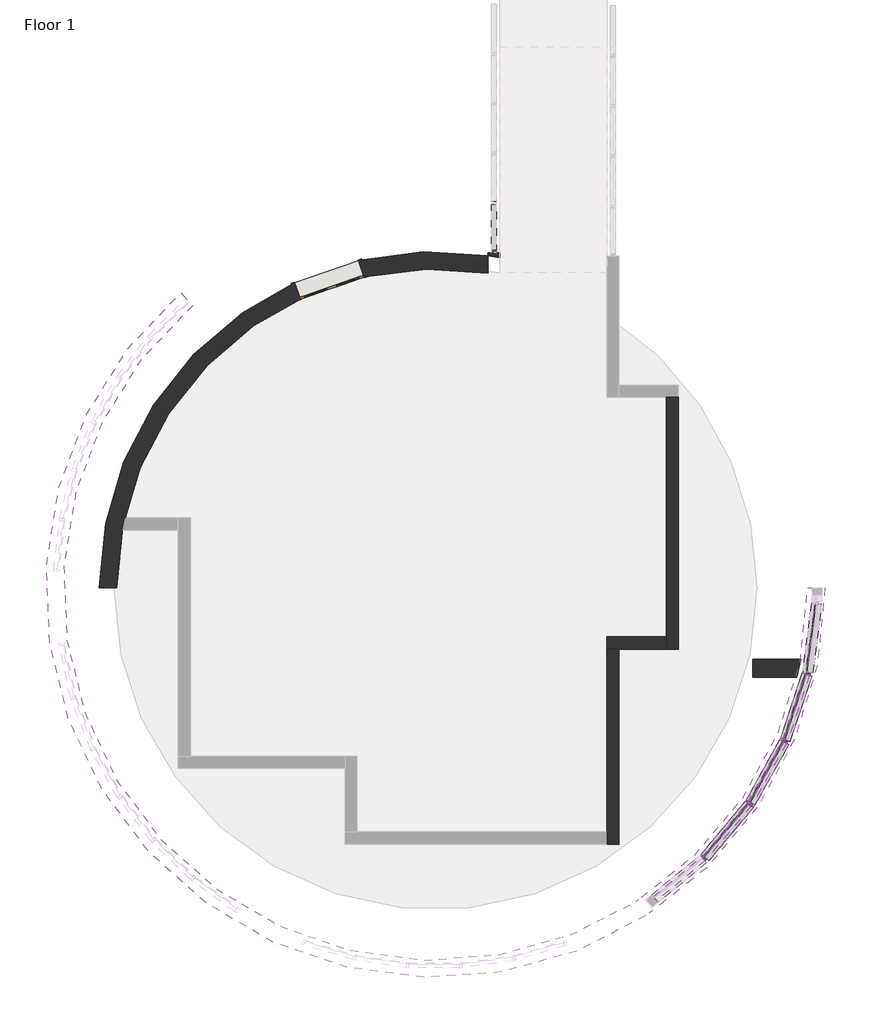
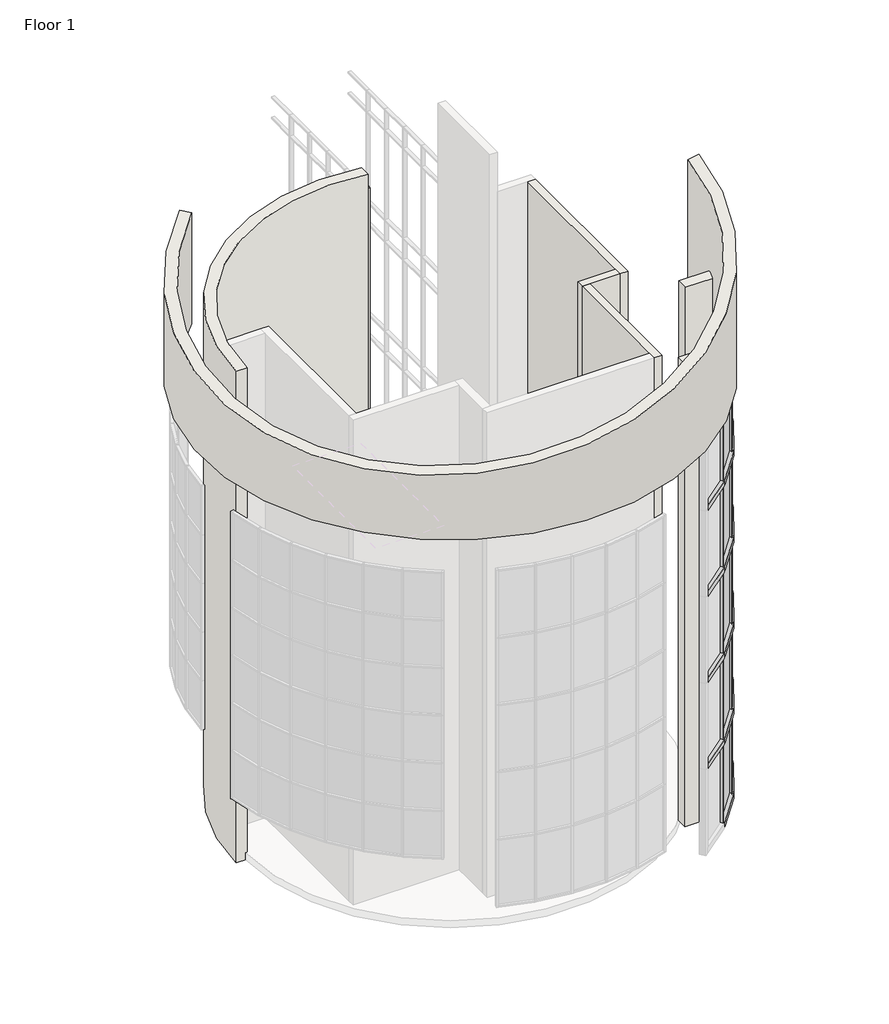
# One storey, part 6 of 11: 60 members, 20 plates, 8 walls, 1 door.
"""IFC4 building model written with IfcOpenShell, lengths in millimetres."""

from ifc_helpers import new_model, si_unit, point, frame, frame_2d, origin, origin_with_axes, place, context, project, spatial, polyline, circle_curve, ellipse_curve, trimmed, segment, composite_curve, outline, extrude, faceted_brep, transform, mapped, element, save
from ifc_brep_helpers import plane_surface, cylinder_surface, revolved_surface, advanced_brep
from components import door_bbe262d5, member_60e3aab2, member_5d07894b, member_c86c7f77, member_810865a4, member_5825c931, member_c2dac231, member_b9454cfc, member_923d5781, member_c17f1be2, member_d2e7e466, member_bbf28ac8, member_5c8c9790, member_136c1585, member_707c4438, member_7751821a, member_84ccbaea, member_b2bf14c7, system_panel_glazed_00caa3d2, system_panel_glazed_6c0831e3, system_panel_glazed_ae73c78b

model = new_model("IFC4")

# Units and contexts
model_context = context("Model", 3, world=origin())
ifc_project = project(units=[si_unit("LENGTHUNIT", "METRE", prefix="MILLI")], contexts=[model_context])

# Site, building, storey
site = spatial("IfcSite", under=ifc_project)
building = spatial("IfcBuilding", under=site)
storey = spatial("IfcBuildingStorey", under=building, Name="Floor 1", Elevation=0.0)

# Door
placement = place(None, origin())
door_shape = door_bbe262d5(model_context)
element("IfcDoor", 1, ObjectType="Dbl Acting Dbl Glass 1 : 68\" x 84\"", at=placement, inside=storey, context=model_context, shape_type="MappedRepresentation", body=[
    mapped(door_shape, transform((3609.6174399, 27247.0948629, 0.0), x_axis=(-0.9454901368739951, -0.3256507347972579, 0.0), y_axis=(0.3256507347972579, -0.9454901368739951, 0.0), z_axis=(0.0, 0.0, 1.0))),
])

# Members
member_shape = member_60e3aab2(model_context)
element("IfcMember", 2, ObjectType="Rectangular Mullion1 : 2.5\" x 5\" rectangular", at=placement, inside=storey, context=model_context, shape_type="MappedRepresentation", body=[
    mapped(member_shape, transform((7830.8276119, 27918.5201792, -152.4), x_axis=(0.0, 0.0, -1.0), y_axis=(1.0, 0.0, 0.0), z_axis=(0.0, -1.0, 0.0))),
])
member_2_shape = member_5d07894b(model_context)
element("IfcMember", 3, ObjectType="Rectangular Mullion1 : 2.5\" x 5\" rectangular", at=placement, inside=storey, context=model_context, shape_type="MappedRepresentation", body=[
    mapped(member_2_shape, transform((7830.8276119, 29189.5191429, -88.9), x_axis=(0.0, 1.0, 0.0), y_axis=(1.0, 0.0, 0.0), z_axis=(0.0, 0.0, -1.0))),
])
member_3_shape = member_c86c7f77(model_context)
element("IfcMember", 4, ObjectType="Rectangular Mullion1 : 2.5\" x 5\" rectangular", at=placement, inside=storey, context=model_context, shape_type="MappedRepresentation", body=[
    mapped(member_3_shape, transform((7830.8276119, 29189.5191429, 5486.4), x_axis=(0.0, 0.0, 1.0), y_axis=(1.0, 0.0, 0.0), z_axis=(0.0, 1.0, 0.0))),
])
element("IfcMember", 5, ObjectType="Rectangular Mullion1 : 2.5\" x 5\" rectangular", at=placement, inside=storey, context=model_context, shape_type="MappedRepresentation", body=[
    mapped(member_3_shape, transform((7830.8276119, 29189.5191429, 10210.8), x_axis=(0.0, 0.0, 1.0), y_axis=(1.0, 0.0, 0.0), z_axis=(0.0, 1.0, 0.0))),
])
element("IfcMember", 6, ObjectType="Rectangular Mullion1 : 2.5\" x 5\" rectangular", at=placement, inside=storey, context=model_context, shape_type="MappedRepresentation", body=[
    mapped(member_3_shape, transform((7830.8276119, 29189.5191429, 14935.2), x_axis=(0.0, 0.0, 1.0), y_axis=(1.0, 0.0, 0.0), z_axis=(0.0, 1.0, 0.0))),
])
element("IfcMember", 7, ObjectType="Rectangular Mullion1 : 2.5\" x 5\" rectangular", at=placement, inside=storey, context=model_context, shape_type="MappedRepresentation", body=[
    mapped(member_3_shape, transform((7830.8276119, 29189.5191429, 18745.2), x_axis=(0.0, 0.0, 1.0), y_axis=(1.0, 0.0, 0.0), z_axis=(0.0, 1.0, 0.0))),
])
element("IfcMember", 8, ObjectType="Rectangular Mullion1 : 2.5\" x 5\" rectangular", at=placement, inside=storey, context=model_context, shape_type="MappedRepresentation", body=[
    mapped(member_3_shape, transform((7830.8276119, 29189.5191429, 14020.8), x_axis=(0.0, 0.0, 1.0), y_axis=(1.0, 0.0, 0.0), z_axis=(0.0, 1.0, 0.0))),
])
element("IfcMember", 9, ObjectType="Rectangular Mullion1 : 2.5\" x 5\" rectangular", at=placement, inside=storey, context=model_context, shape_type="MappedRepresentation", body=[
    mapped(member_3_shape, transform((7830.8276119, 29189.5191429, 9296.4), x_axis=(0.0, 0.0, 1.0), y_axis=(1.0, 0.0, 0.0), z_axis=(0.0, 1.0, 0.0))),
])
member_4_shape = member_810865a4(model_context)
element("IfcMember", 10, ObjectType="Rectangular Mullion1 : 2.5\" x 5\" rectangular", at=placement, inside=storey, context=model_context, shape_type="MappedRepresentation", body=[
    mapped(member_4_shape, transform((13215.7892614, 12420.6743891, 0.0), x_axis=(0.7115792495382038, 0.7026058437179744, 0.0), y_axis=(0.7026058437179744, -0.7115792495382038, 0.0), z_axis=(0.0, 0.0, -1.0))),
])
element("IfcMember", 11, ObjectType="Rectangular Mullion1 : 2.5\" x 5\" rectangular", at=placement, inside=storey, context=model_context, shape_type="MappedRepresentation", body=[
    mapped(member_4_shape, transform((15282.1684229, 15418.9839138, 0.0), x_axis=(0.4032933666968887, 0.9150707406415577, 0.0), y_axis=(0.9150707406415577, -0.4032933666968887, 0.0), z_axis=(0.0, 0.0, -1.0))),
])
element("IfcMember", 12, ObjectType="Rectangular Mullion1 : 2.5\" x 5\" rectangular", at=placement, inside=storey, context=model_context, shape_type="MappedRepresentation", body=[
    mapped(member_4_shape, transform((15859.1061134, 17154.3952027, 0.0), x_axis=(0.2248585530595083, 0.9743914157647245, 0.0), y_axis=(0.9743914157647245, -0.2248585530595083, 0.0), z_axis=(0.0, 0.0, -1.0))),
])
member_5_shape = member_5825c931(model_context)
element("IfcMember", 13, ObjectType="Rectangular Mullion1 : 2.5\" x 5\" rectangular", at=placement, inside=storey, context=model_context, shape_type="MappedRepresentation", body=[
    mapped(member_5_shape, transform((14390.5542634, 13822.2580042, 0.0), x_axis=(0.5674685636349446, 0.8233950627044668, 0.0), y_axis=(0.8233950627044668, -0.5674685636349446, 0.0), z_axis=(0.0, 0.0, -1.0))),
])
member_6_shape = member_c2dac231(model_context)
element("IfcMember", 14, ObjectType="Rectangular Mullion1 : 2.5\" x 5\" rectangular", at=placement, inside=storey, context=model_context, shape_type="MappedRepresentation", body=[
    mapped(member_6_shape, transform((13191.1993553, 12400.5895935, 17373.6), x_axis=(0.0, 0.0, 1.0), y_axis=(0.6325919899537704, -0.7744852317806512, 0.0), z_axis=(0.7744852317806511, 0.6325919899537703, 0.0))),
])
member_7_shape = member_b9454cfc(model_context)
element("IfcMember", 15, ObjectType="Rectangular Mullion1 : 2.5\" x 5\" rectangular", at=placement, inside=storey, context=model_context, shape_type="MappedRepresentation", body=[
    mapped(member_7_shape, transform((14370.1590376, 13797.9249554, 17373.6), x_axis=(0.0, 0.0, 1.0), y_axis=(0.7663952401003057, -0.6423693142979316, 0.0), z_axis=(0.6423693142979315, 0.7663952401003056, 0.0))),
])
element("IfcMember", 16, ObjectType="Rectangular Mullion1 : 2.5\" x 5\" rectangular", at=placement, inside=storey, context=model_context, shape_type="MappedRepresentation", body=[
    mapped(member_7_shape, transform((15266.6890104, 15391.2629779, 17373.6), x_axis=(0.0, 0.0, 1.0), y_axis=(0.8731003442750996, -0.4875405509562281, 0.0), z_axis=(0.4875405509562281, 0.8731003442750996, 0.0))),
])
element("IfcMember", 17, ObjectType="Rectangular Mullion1 : 2.5\" x 5\" rectangular", at=placement, inside=storey, context=model_context, shape_type="MappedRepresentation", body=[
    mapped(member_7_shape, transform((15849.089834, 17124.2665345, 17373.6), x_axis=(0.0, 0.0, 1.0), y_axis=(0.9489344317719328, -0.3154733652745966, 0.0), z_axis=(0.3154733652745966, 0.9489344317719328, 0.0))),
])
element("IfcMember", 18, ObjectType="Rectangular Mullion1 : 2.5\" x 5\" rectangular", at=placement, inside=storey, context=model_context, shape_type="MappedRepresentation", body=[
    mapped(member_4_shape, transform((13215.7892614, 12420.6743891, 3657.6), x_axis=(0.7115792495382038, 0.7026058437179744, 0.0), y_axis=(0.7026058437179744, -0.7115792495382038, 0.0), z_axis=(0.0, 0.0, -1.0))),
])
element("IfcMember", 19, ObjectType="Rectangular Mullion1 : 2.5\" x 5\" rectangular", at=placement, inside=storey, context=model_context, shape_type="MappedRepresentation", body=[
    mapped(member_4_shape, transform((13215.7892614, 12420.6743891, 7315.2), x_axis=(0.7115792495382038, 0.7026058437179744, 0.0), y_axis=(0.7026058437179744, -0.7115792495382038, 0.0), z_axis=(0.0, 0.0, -1.0))),
])
element("IfcMember", 20, ObjectType="Rectangular Mullion1 : 2.5\" x 5\" rectangular", at=placement, inside=storey, context=model_context, shape_type="MappedRepresentation", body=[
    mapped(member_4_shape, transform((13215.7892614, 12420.6743891, 10972.8), x_axis=(0.7115792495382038, 0.7026058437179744, 0.0), y_axis=(0.7026058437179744, -0.7115792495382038, 0.0), z_axis=(0.0, 0.0, -1.0))),
])
element("IfcMember", 21, ObjectType="Rectangular Mullion1 : 2.5\" x 5\" rectangular", at=placement, inside=storey, context=model_context, shape_type="MappedRepresentation", body=[
    mapped(member_4_shape, transform((14390.5542634, 13822.2580042, 7315.2), x_axis=(0.5674685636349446, 0.8233950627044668, 0.0), y_axis=(0.8233950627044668, -0.5674685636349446, 0.0), z_axis=(0.0, 0.0, -1.0))),
])
element("IfcMember", 22, ObjectType="Rectangular Mullion1 : 2.5\" x 5\" rectangular", at=placement, inside=storey, context=model_context, shape_type="MappedRepresentation", body=[
    mapped(member_4_shape, transform((14390.5542634, 13822.2580042, 10972.8), x_axis=(0.5674685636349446, 0.8233950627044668, 0.0), y_axis=(0.8233950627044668, -0.5674685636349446, 0.0), z_axis=(0.0, 0.0, -1.0))),
])
element("IfcMember", 23, ObjectType="Rectangular Mullion1 : 2.5\" x 5\" rectangular", at=placement, inside=storey, context=model_context, shape_type="MappedRepresentation", body=[
    mapped(member_4_shape, transform((15282.1684229, 15418.9839138, 3657.6), x_axis=(0.4032933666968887, 0.9150707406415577, 0.0), y_axis=(0.9150707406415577, -0.4032933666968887, 0.0), z_axis=(0.0, 0.0, -1.0))),
])
element("IfcMember", 24, ObjectType="Rectangular Mullion1 : 2.5\" x 5\" rectangular", at=placement, inside=storey, context=model_context, shape_type="MappedRepresentation", body=[
    mapped(member_4_shape, transform((15282.1684229, 15418.9839138, 7315.2), x_axis=(0.4032933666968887, 0.9150707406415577, 0.0), y_axis=(0.9150707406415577, -0.4032933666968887, 0.0), z_axis=(0.0, 0.0, -1.0))),
])
element("IfcMember", 25, ObjectType="Rectangular Mullion1 : 2.5\" x 5\" rectangular", at=placement, inside=storey, context=model_context, shape_type="MappedRepresentation", body=[
    mapped(member_4_shape, transform((15282.1684229, 15418.9839138, 10972.8), x_axis=(0.4032933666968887, 0.9150707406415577, 0.0), y_axis=(0.9150707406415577, -0.4032933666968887, 0.0), z_axis=(0.0, 0.0, -1.0))),
])
element("IfcMember", 26, ObjectType="Rectangular Mullion1 : 2.5\" x 5\" rectangular", at=placement, inside=storey, context=model_context, shape_type="MappedRepresentation", body=[
    mapped(member_4_shape, transform((15859.1061134, 17154.3952027, 3657.6), x_axis=(0.2248585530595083, 0.9743914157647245, 0.0), y_axis=(0.9743914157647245, -0.2248585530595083, 0.0), z_axis=(0.0, 0.0, -1.0))),
])
element("IfcMember", 27, ObjectType="Rectangular Mullion1 : 2.5\" x 5\" rectangular", at=placement, inside=storey, context=model_context, shape_type="MappedRepresentation", body=[
    mapped(member_4_shape, transform((15859.1061134, 17154.3952027, 7315.2), x_axis=(0.2248585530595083, 0.9743914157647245, 0.0), y_axis=(0.9743914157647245, -0.2248585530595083, 0.0), z_axis=(0.0, 0.0, -1.0))),
])
element("IfcMember", 28, ObjectType="Rectangular Mullion1 : 2.5\" x 5\" rectangular", at=placement, inside=storey, context=model_context, shape_type="MappedRepresentation", body=[
    mapped(member_4_shape, transform((15859.1061134, 17154.3952027, 10972.8), x_axis=(0.2248585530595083, 0.9743914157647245, 0.0), y_axis=(0.9743914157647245, -0.2248585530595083, 0.0), z_axis=(0.0, 0.0, -1.0))),
])
member_8_shape = member_923d5781(model_context)
element("IfcMember", 29, ObjectType="Rectangular Mullion1 : 2.5\" x 5\" rectangular", at=placement, inside=storey, context=model_context, shape_type="MappedRepresentation", body=[
    mapped(member_8_shape, transform((13215.7892614, 12420.6743891, 14630.4), x_axis=(0.7115792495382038, 0.7026058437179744, 0.0), y_axis=(0.7026058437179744, -0.7115792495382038, 0.0), z_axis=(0.0, 0.0, -1.0))),
])
element("IfcMember", 30, ObjectType="Rectangular Mullion1 : 2.5\" x 5\" rectangular", at=placement, inside=storey, context=model_context, shape_type="MappedRepresentation", body=[
    mapped(member_8_shape, transform((14390.5542634, 13822.2580042, 14630.4), x_axis=(0.5674685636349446, 0.8233950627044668, 0.0), y_axis=(0.8233950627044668, -0.5674685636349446, 0.0), z_axis=(0.0, 0.0, -1.0))),
])
element("IfcMember", 31, ObjectType="Rectangular Mullion1 : 2.5\" x 5\" rectangular", at=placement, inside=storey, context=model_context, shape_type="MappedRepresentation", body=[
    mapped(member_8_shape, transform((15282.1684229, 15418.9839138, 14630.4), x_axis=(0.4032933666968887, 0.9150707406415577, 0.0), y_axis=(0.9150707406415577, -0.4032933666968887, 0.0), z_axis=(0.0, 0.0, -1.0))),
])
element("IfcMember", 32, ObjectType="Rectangular Mullion1 : 2.5\" x 5\" rectangular", at=placement, inside=storey, context=model_context, shape_type="MappedRepresentation", body=[
    mapped(member_8_shape, transform((15859.1061134, 17154.3952027, 14630.4), x_axis=(0.2248585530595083, 0.9743914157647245, 0.0), y_axis=(0.9743914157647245, -0.2248585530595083, 0.0), z_axis=(0.0, 0.0, -1.0))),
])
element("IfcMember", 33, ObjectType="Rectangular Mullion1 : 2.5\" x 5\" rectangular", at=placement, inside=storey, context=model_context, shape_type="MappedRepresentation", body=[
    mapped(member_5_shape, transform((14390.5542634, 13822.2580042, 3759.2), x_axis=(0.5674685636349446, 0.8233950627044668, 0.0), y_axis=(0.8233950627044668, -0.5674685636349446, 0.0), z_axis=(0.0, 0.0, -1.0))),
])
member_9_shape = member_c17f1be2(model_context)
element("IfcMember", 34, ObjectType="Rectangular Mullion1 : 2.5\" x 5\" rectangular", at=placement, inside=storey, context=model_context, shape_type="MappedRepresentation", body=[
    mapped(member_9_shape, transform((7830.8276119, 27918.5201792, 19596.1), x_axis=(0.0, -1.0, 0.0), y_axis=(1.0, 0.0, 0.0), z_axis=(0.0, 0.0, 1.0))),
])
member_10_shape = member_d2e7e466(model_context)
element("IfcMember", 35, ObjectType="Rectangular Mullion1 : 2.5\" x 5\" rectangular", at=placement, inside=storey, context=model_context, shape_type="MappedRepresentation", body=[
    mapped(member_10_shape, transform((7830.8276119, 27918.5201792, 5454.65), x_axis=(0.0, -1.0, 0.0), y_axis=(1.0, 0.0, 0.0), z_axis=(0.0, 0.0, 1.0))),
])
element("IfcMember", 36, ObjectType="Rectangular Mullion1 : 2.5\" x 5\" rectangular", at=placement, inside=storey, context=model_context, shape_type="MappedRepresentation", body=[
    mapped(member_10_shape, transform((7830.8276119, 27918.5201792, 10179.05), x_axis=(0.0, -1.0, 0.0), y_axis=(1.0, 0.0, 0.0), z_axis=(0.0, 0.0, 1.0))),
])
element("IfcMember", 37, ObjectType="Rectangular Mullion1 : 2.5\" x 5\" rectangular", at=placement, inside=storey, context=model_context, shape_type="MappedRepresentation", body=[
    mapped(member_10_shape, transform((7830.8276119, 27918.5201792, 14903.45), x_axis=(0.0, -1.0, 0.0), y_axis=(1.0, 0.0, 0.0), z_axis=(0.0, 0.0, 1.0))),
])
member_11_shape = member_bbf28ac8(model_context)
element("IfcMember", 38, ObjectType="Rectangular Mullion1 : 2.5\" x 5\" rectangular", at=placement, inside=storey, context=model_context, shape_type="MappedRepresentation", body=[
    mapped(member_11_shape, transform((7830.8276119, 27918.5201792, 18713.45), x_axis=(0.0, -1.0, 0.0), y_axis=(1.0, 0.0, 0.0), z_axis=(0.0, 0.0, 1.0))),
])
element("IfcMember", 39, ObjectType="Rectangular Mullion1 : 2.5\" x 5\" rectangular", at=placement, inside=storey, context=model_context, shape_type="MappedRepresentation", body=[
    mapped(member_11_shape, transform((7830.8276119, 27918.5201792, 13989.05), x_axis=(0.0, -1.0, 0.0), y_axis=(1.0, 0.0, 0.0), z_axis=(0.0, 0.0, 1.0))),
])
element("IfcMember", 40, ObjectType="Rectangular Mullion1 : 2.5\" x 5\" rectangular", at=placement, inside=storey, context=model_context, shape_type="MappedRepresentation", body=[
    mapped(member_11_shape, transform((7830.8276119, 27918.5201792, 9264.65), x_axis=(0.0, -1.0, 0.0), y_axis=(1.0, 0.0, 0.0), z_axis=(0.0, 0.0, 1.0))),
])
member_12_shape = member_5c8c9790(model_context)
element("IfcMember", 41, ObjectType="Rectangular Mullion1 : 2.5\" x 5\" rectangular", at=placement, inside=storey, context=model_context, shape_type="MappedRepresentation", body=[
    mapped(member_12_shape, transform((7830.8276119, 27918.5201792, 4540.25), x_axis=(0.0, -1.0, 0.0), y_axis=(1.0, 0.0, 0.0), z_axis=(0.0, 0.0, 1.0))),
])
member_13_shape = member_136c1585(model_context)
element("IfcMember", 42, ObjectType="Rectangular Mullion1 : 8\" x 10\" rectangular", at=placement, inside=storey, context=model_context, shape_type="MappedRepresentation", body=[
    mapped(member_13_shape, transform((15863.3051047, 17185.866316, 0.0), x_axis=(0.0, 0.0, -1.0), y_axis=(0.9912161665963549, -0.13225169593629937, 0.0), z_axis=(-0.13225169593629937, -0.9912161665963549, 0.0))),
])
element("IfcMember", 43, ObjectType="Rectangular Mullion1 : 8\" x 10\" rectangular", at=placement, inside=storey, context=model_context, shape_type="MappedRepresentation", body=[
    mapped(member_13_shape, transform((15292.1847023, 15449.112582, 0.0), x_axis=(0.0, 0.0, -1.0), y_axis=(0.948934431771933, -0.3154733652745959, 0.0), z_axis=(-0.31547336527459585, -0.9489344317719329, 0.0))),
])
element("IfcMember", 44, ObjectType="Rectangular Mullion1 : 8\" x 10\" rectangular", at=placement, inside=storey, context=model_context, shape_type="MappedRepresentation", body=[
    mapped(member_13_shape, transform((14406.0336758, 13849.9789402, 0.0), x_axis=(0.0, 0.0, -1.0), y_axis=(0.8731003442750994, -0.48754055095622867, 0.0), z_axis=(-0.4875405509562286, -0.8731003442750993, 0.0))),
])
element("IfcMember", 45, ObjectType="Rectangular Mullion1 : 8\" x 10\" rectangular", at=placement, inside=storey, context=model_context, shape_type="MappedRepresentation", body=[
    mapped(member_13_shape, transform((13236.1844871, 12445.007438, 0.0), x_axis=(0.0, 0.0, -1.0), y_axis=(0.7663952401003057, -0.6423693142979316, 0.0), z_axis=(-0.6423693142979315, -0.7663952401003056, 0.0))),
])
member_14_shape = member_707c4438(model_context)
element("IfcMember", 46, ObjectType="Rectangular Mullion1 : 8\" x 10\" rectangular", at=placement, inside=storey, context=model_context, shape_type="MappedRepresentation", body=[
    mapped(member_14_shape, transform((15849.089834, 17124.2665345, 3657.6), x_axis=(0.0, 0.0, 1.0), y_axis=(0.948934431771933, -0.3154733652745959, 0.0), z_axis=(0.31547336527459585, 0.9489344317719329, 0.0))),
])
element("IfcMember", 47, ObjectType="Rectangular Mullion1 : 8\" x 10\" rectangular", at=placement, inside=storey, context=model_context, shape_type="MappedRepresentation", body=[
    mapped(member_14_shape, transform((15849.089834, 17124.2665345, 7315.2), x_axis=(0.0, 0.0, 1.0), y_axis=(0.9489344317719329, -0.31547336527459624, 0.0), z_axis=(0.3154733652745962, 0.9489344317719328, 0.0))),
])
element("IfcMember", 48, ObjectType="Rectangular Mullion1 : 8\" x 10\" rectangular", at=placement, inside=storey, context=model_context, shape_type="MappedRepresentation", body=[
    mapped(member_14_shape, transform((15849.089834, 17124.2665345, 10972.8), x_axis=(0.0, 0.0, 1.0), y_axis=(0.9489344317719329, -0.31547336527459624, 0.0), z_axis=(0.3154733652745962, 0.9489344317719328, 0.0))),
])
element("IfcMember", 49, ObjectType="Rectangular Mullion1 : 8\" x 10\" rectangular", at=placement, inside=storey, context=model_context, shape_type="MappedRepresentation", body=[
    mapped(member_14_shape, transform((15266.6890104, 15391.2629779, 10972.8), x_axis=(0.0, 0.0, 1.0), y_axis=(0.8731003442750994, -0.48754055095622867, 0.0), z_axis=(0.4875405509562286, 0.8731003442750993, 0.0))),
])
element("IfcMember", 50, ObjectType="Rectangular Mullion1 : 8\" x 10\" rectangular", at=placement, inside=storey, context=model_context, shape_type="MappedRepresentation", body=[
    mapped(member_14_shape, transform((14370.1590376, 13797.9249554, 10972.8), x_axis=(0.0, 0.0, 1.0), y_axis=(0.7663952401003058, -0.6423693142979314, 0.0), z_axis=(0.6423693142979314, 0.7663952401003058, 0.0))),
])
member_15_shape = member_7751821a(model_context)
element("IfcMember", 51, ObjectType="Rectangular Mullion1 : 8\" x 10\" rectangular", at=placement, inside=storey, context=model_context, shape_type="MappedRepresentation", body=[
    mapped(member_15_shape, transform((15266.6890104, 15391.2629779, 3657.6), x_axis=(0.0, 0.0, 1.0), y_axis=(0.8731003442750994, -0.48754055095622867, 0.0), z_axis=(0.4875405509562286, 0.8731003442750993, 0.0))),
])
member_16_shape = member_84ccbaea(model_context)
element("IfcMember", 52, ObjectType="Rectangular Mullion1 : 8\" x 10\" rectangular", at=placement, inside=storey, context=model_context, shape_type="MappedRepresentation", body=[
    mapped(member_16_shape, transform((14390.5542634, 13822.2580042, 3657.6), x_axis=(0.0, 0.0, 1.0), y_axis=(0.7663952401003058, -0.6423693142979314, 0.0), z_axis=(0.6423693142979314, 0.7663952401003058, 0.0))),
])
member_17_shape = member_b2bf14c7(model_context)
element("IfcMember", 53, ObjectType="Rectangular Mullion1 : 8\" x 10\" rectangular", at=placement, inside=storey, context=model_context, shape_type="MappedRepresentation", body=[
    mapped(member_17_shape, transform((13191.1993553, 12400.5895935, 3657.6), x_axis=(0.0, 0.0, 1.0), y_axis=(0.6325919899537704, -0.7744852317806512, 0.0), z_axis=(0.7744852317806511, 0.6325919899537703, 0.0))),
])
element("IfcMember", 54, ObjectType="Rectangular Mullion1 : 8\" x 10\" rectangular", at=placement, inside=storey, context=model_context, shape_type="MappedRepresentation", body=[
    mapped(member_17_shape, transform((13191.1993553, 12400.5895935, 7315.2), x_axis=(0.0, 0.0, 1.0), y_axis=(0.6325919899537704, -0.7744852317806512, 0.0), z_axis=(0.7744852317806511, 0.6325919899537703, 0.0))),
])
element("IfcMember", 55, ObjectType="Rectangular Mullion1 : 8\" x 10\" rectangular", at=placement, inside=storey, context=model_context, shape_type="MappedRepresentation", body=[
    mapped(member_17_shape, transform((13191.1993553, 12400.5895935, 10972.8), x_axis=(0.0, 0.0, 1.0), y_axis=(0.6325919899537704, -0.7744852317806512, 0.0), z_axis=(0.7744852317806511, 0.6325919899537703, 0.0))),
])
element("IfcMember", 56, ObjectType="Rectangular Mullion1 : 8\" x 10\" rectangular", at=placement, inside=storey, context=model_context, shape_type="MappedRepresentation", body=[
    mapped(member_14_shape, transform((15266.6890104, 15391.2629779, 7315.2), x_axis=(0.0, 0.0, 1.0), y_axis=(0.8731003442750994, -0.48754055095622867, 0.0), z_axis=(0.4875405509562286, 0.8731003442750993, 0.0))),
])
element("IfcMember", 57, ObjectType="Rectangular Mullion1 : 8\" x 10\" rectangular", at=placement, inside=storey, context=model_context, shape_type="MappedRepresentation", body=[
    mapped(member_14_shape, transform((14370.1590376, 13797.9249554, 7315.2), x_axis=(0.0, 0.0, 1.0), y_axis=(0.7663952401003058, -0.6423693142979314, 0.0), z_axis=(0.6423693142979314, 0.7663952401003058, 0.0))),
])
element("IfcMember", 58, ObjectType="Rectangular Mullion1 : 8\" x 10\" rectangular", at=placement, inside=storey, context=model_context, shape_type="MappedRepresentation", body=[
    mapped(member_14_shape, transform((15849.089834, 17124.2665345, 14630.4), x_axis=(0.0, 0.0, 1.0), y_axis=(0.9489344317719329, -0.31547336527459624, 0.0), z_axis=(0.3154733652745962, 0.9489344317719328, 0.0))),
])
element("IfcMember", 59, ObjectType="Rectangular Mullion1 : 8\" x 10\" rectangular", at=placement, inside=storey, context=model_context, shape_type="MappedRepresentation", body=[
    mapped(member_14_shape, transform((15266.6890104, 15391.2629779, 14630.4), x_axis=(0.0, 0.0, 1.0), y_axis=(0.8731003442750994, -0.48754055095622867, 0.0), z_axis=(0.4875405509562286, 0.8731003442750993, 0.0))),
])
element("IfcMember", 60, ObjectType="Rectangular Mullion1 : 8\" x 10\" rectangular", at=placement, inside=storey, context=model_context, shape_type="MappedRepresentation", body=[
    mapped(member_14_shape, transform((14370.1590376, 13797.9249554, 14630.4), x_axis=(0.0, 0.0, 1.0), y_axis=(0.7663952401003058, -0.6423693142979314, 0.0), z_axis=(0.6423693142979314, 0.7663952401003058, 0.0))),
])
element("IfcMember", 61, ObjectType="Rectangular Mullion1 : 8\" x 10\" rectangular", at=placement, inside=storey, context=model_context, shape_type="MappedRepresentation", body=[
    mapped(member_17_shape, transform((13191.1993553, 12400.5895935, 14630.4), x_axis=(0.0, 0.0, 1.0), y_axis=(0.6325919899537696, -0.7744852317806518, 0.0), z_axis=(0.7744852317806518, 0.6325919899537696, 0.0))),
])

# Plates
system_panel_glazed_shape = system_panel_glazed_00caa3d2(model_context)
element("IfcPlate", 62, ObjectType="System Panel : Glazed", at=placement, inside=storey, context=model_context, shape_type="MappedRepresentation", body=[
    mapped(system_panel_glazed_shape, transform((13803.1717624, 13121.4661967, 203.2), x_axis=(0.6423693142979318, 0.7663952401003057, 0.0), y_axis=(-0.7663952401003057, 0.6423693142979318, 0.0), z_axis=(0.0, 0.0, 1.0))),
])
element("IfcPlate", 63, ObjectType="System Panel : Glazed", at=placement, inside=storey, context=model_context, shape_type="MappedRepresentation", body=[
    mapped(system_panel_glazed_shape, transform((14836.3613431, 14620.620959, 203.2), x_axis=(0.4875405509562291, 0.8731003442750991, 0.0), y_axis=(-0.8731003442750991, 0.4875405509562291, 0.0), z_axis=(0.0, 0.0, 1.0))),
])
element("IfcPlate", 64, ObjectType="System Panel : Glazed", at=placement, inside=storey, context=model_context, shape_type="MappedRepresentation", body=[
    mapped(system_panel_glazed_shape, transform((15570.6372681, 16286.6895583, 203.2), x_axis=(0.3154733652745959, 0.948934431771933, 0.0), y_axis=(-0.948934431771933, 0.3154733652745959, 0.0), z_axis=(0.0, 0.0, 1.0))),
])
element("IfcPlate", 65, ObjectType="System Panel : Glazed", at=placement, inside=storey, context=model_context, shape_type="MappedRepresentation", body=[
    mapped(system_panel_glazed_shape, transform((15980.0370641, 18060.7632654, 203.2), x_axis=(0.1322516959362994, 0.9912161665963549, 0.0), y_axis=(-0.9912161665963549, 0.1322516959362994, 0.0), z_axis=(0.0, 0.0, 1.0))),
])
system_panel_glazed_2_shape = system_panel_glazed_6c0831e3(model_context)
element("IfcPlate", 66, ObjectType="System Panel : Glazed", at=placement, inside=storey, context=model_context, shape_type="MappedRepresentation", body=[
    mapped(system_panel_glazed_2_shape, transform((13803.1717624, 13121.4661967, 3759.2), x_axis=(0.6423693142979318, 0.7663952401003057, 0.0), y_axis=(-0.7663952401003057, 0.6423693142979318, 0.0), z_axis=(0.0, 0.0, 1.0))),
])
element("IfcPlate", 67, ObjectType="System Panel : Glazed", at=placement, inside=storey, context=model_context, shape_type="MappedRepresentation", body=[
    mapped(system_panel_glazed_2_shape, transform((14836.3613431, 14620.620959, 3759.2), x_axis=(0.4875405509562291, 0.8731003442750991, 0.0), y_axis=(-0.8731003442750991, 0.4875405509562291, 0.0), z_axis=(0.0, 0.0, 1.0))),
])
element("IfcPlate", 68, ObjectType="System Panel : Glazed", at=placement, inside=storey, context=model_context, shape_type="MappedRepresentation", body=[
    mapped(system_panel_glazed_2_shape, transform((15570.6372681, 16286.6895583, 3759.2), x_axis=(0.3154733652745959, 0.948934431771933, 0.0), y_axis=(-0.948934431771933, 0.3154733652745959, 0.0), z_axis=(0.0, 0.0, 1.0))),
])
element("IfcPlate", 69, ObjectType="System Panel : Glazed", at=placement, inside=storey, context=model_context, shape_type="MappedRepresentation", body=[
    mapped(system_panel_glazed_2_shape, transform((15980.0370641, 18060.7632654, 3759.2), x_axis=(0.1322516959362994, 0.9912161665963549, 0.0), y_axis=(-0.9912161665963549, 0.1322516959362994, 0.0), z_axis=(0.0, 0.0, 1.0))),
])
element("IfcPlate", 70, ObjectType="System Panel : Glazed", at=placement, inside=storey, context=model_context, shape_type="MappedRepresentation", body=[
    mapped(system_panel_glazed_2_shape, transform((13803.1717624, 13121.4661967, 7416.8), x_axis=(0.6423693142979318, 0.7663952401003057, 0.0), y_axis=(-0.7663952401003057, 0.6423693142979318, 0.0), z_axis=(0.0, 0.0, 1.0))),
])
element("IfcPlate", 71, ObjectType="System Panel : Glazed", at=placement, inside=storey, context=model_context, shape_type="MappedRepresentation", body=[
    mapped(system_panel_glazed_2_shape, transform((14836.3613431, 14620.620959, 7416.8), x_axis=(0.4875405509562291, 0.8731003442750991, 0.0), y_axis=(-0.8731003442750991, 0.4875405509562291, 0.0), z_axis=(0.0, 0.0, 1.0))),
])
element("IfcPlate", 72, ObjectType="System Panel : Glazed", at=placement, inside=storey, context=model_context, shape_type="MappedRepresentation", body=[
    mapped(system_panel_glazed_2_shape, transform((15570.6372681, 16286.6895583, 7416.8), x_axis=(0.3154733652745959, 0.948934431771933, 0.0), y_axis=(-0.948934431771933, 0.3154733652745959, 0.0), z_axis=(0.0, 0.0, 1.0))),
])
element("IfcPlate", 73, ObjectType="System Panel : Glazed", at=placement, inside=storey, context=model_context, shape_type="MappedRepresentation", body=[
    mapped(system_panel_glazed_2_shape, transform((15980.0370641, 18060.7632654, 7416.8), x_axis=(0.1322516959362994, 0.9912161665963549, 0.0), y_axis=(-0.9912161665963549, 0.1322516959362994, 0.0), z_axis=(0.0, 0.0, 1.0))),
])
element("IfcPlate", 74, ObjectType="System Panel : Glazed", at=placement, inside=storey, context=model_context, shape_type="MappedRepresentation", body=[
    mapped(system_panel_glazed_2_shape, transform((13803.1717624, 13121.4661967, 11074.4), x_axis=(0.6423693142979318, 0.7663952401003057, 0.0), y_axis=(-0.7663952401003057, 0.6423693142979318, 0.0), z_axis=(0.0, 0.0, 1.0))),
])
element("IfcPlate", 75, ObjectType="System Panel : Glazed", at=placement, inside=storey, context=model_context, shape_type="MappedRepresentation", body=[
    mapped(system_panel_glazed_2_shape, transform((14836.3613431, 14620.620959, 11074.4), x_axis=(0.4875405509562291, 0.8731003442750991, 0.0), y_axis=(-0.8731003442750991, 0.4875405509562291, 0.0), z_axis=(0.0, 0.0, 1.0))),
])
element("IfcPlate", 76, ObjectType="System Panel : Glazed", at=placement, inside=storey, context=model_context, shape_type="MappedRepresentation", body=[
    mapped(system_panel_glazed_2_shape, transform((15570.6372681, 16286.6895583, 11074.4), x_axis=(0.3154733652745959, 0.948934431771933, 0.0), y_axis=(-0.948934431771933, 0.3154733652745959, 0.0), z_axis=(0.0, 0.0, 1.0))),
])
element("IfcPlate", 77, ObjectType="System Panel : Glazed", at=placement, inside=storey, context=model_context, shape_type="MappedRepresentation", body=[
    mapped(system_panel_glazed_2_shape, transform((15980.0370641, 18060.7632654, 11074.4), x_axis=(0.1322516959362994, 0.9912161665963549, 0.0), y_axis=(-0.9912161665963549, 0.1322516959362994, 0.0), z_axis=(0.0, 0.0, 1.0))),
])
system_panel_glazed_3_shape = system_panel_glazed_ae73c78b(model_context)
element("IfcPlate", 78, ObjectType="System Panel : Glazed", at=placement, inside=storey, context=model_context, shape_type="MappedRepresentation", body=[
    mapped(system_panel_glazed_3_shape, transform((13803.1717624, 13121.4661967, 14732.0), x_axis=(0.6423693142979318, 0.7663952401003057, 0.0), y_axis=(-0.7663952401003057, 0.6423693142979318, 0.0), z_axis=(0.0, 0.0, 1.0))),
])
element("IfcPlate", 79, ObjectType="System Panel : Glazed", at=placement, inside=storey, context=model_context, shape_type="MappedRepresentation", body=[
    mapped(system_panel_glazed_3_shape, transform((14836.3613431, 14620.620959, 14732.0), x_axis=(0.4875405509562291, 0.8731003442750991, 0.0), y_axis=(-0.8731003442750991, 0.4875405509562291, 0.0), z_axis=(0.0, 0.0, 1.0))),
])
element("IfcPlate", 80, ObjectType="System Panel : Glazed", at=placement, inside=storey, context=model_context, shape_type="MappedRepresentation", body=[
    mapped(system_panel_glazed_3_shape, transform((15570.6372681, 16286.6895583, 14732.0), x_axis=(0.31547336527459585, 0.948934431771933, 0.0), y_axis=(-0.948934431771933, 0.31547336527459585, 0.0), z_axis=(0.0, 0.0, 1.0))),
])
element("IfcPlate", 81, ObjectType="System Panel : Glazed", at=placement, inside=storey, context=model_context, shape_type="MappedRepresentation", body=[
    mapped(system_panel_glazed_3_shape, transform((15980.0370641, 18060.7632654, 14732.0), x_axis=(0.13225169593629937, 0.9912161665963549, 0.0), y_axis=(-0.9912161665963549, 0.13225169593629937, 0.0), z_axis=(0.0, 0.0, 1.0))),
])

# Walls
element("IfcWall", 82, ObjectType="Stone on CMU", at=placement, inside=storey, context=model_context, shape_type="SweptSolid", body=[
    extrude(outline(composite_curve([segment(polyline([(15586.1958424, 17057.2307105), (14458.2317878, 17057.2307105), (14458.2317878, 17511.2557105), (15686.580492, 17511.2557105)]), True, "CONTINUOUS"), segment(trimmed(circle_curve(frame_2d((6332.5692024, 19341.311889)), 9531.35), [point((15686.580492, 17511.2557105))], [point((15586.1958424, 17057.2307105))], False, "CARTESIAN"), True, "CONTINUOUS")], self_intersect=False)), origin_with_axes(), (0.0, 0.0, 1.0), 19659.6),
])
element("IfcWall", 83, ObjectType="Stone on CMU", at=placement, inside=storey, context=model_context, shape_type="SweptSolid", body=[
    extrude(outline(composite_curve([segment(polyline([(13504.3306702, 13063.3766973), (12132.9363096, 13063.3766973), (12132.9363096, 13517.4016973), (13877.6803945, 13517.4016973)]), True, "CONTINUOUS"), segment(trimmed(circle_curve(frame_2d((6332.5692024, 19341.311889)), 9531.35), [point((13877.6803945, 13517.4016973))], [point((13504.3306702, 13063.3766973))], False, "CARTESIAN"), True, "CONTINUOUS")], self_intersect=False)), origin_with_axes(), (0.0, 0.0, 1.0), 19659.6),
])
element("IfcWall", 84, ObjectType="a_Mtl panel on Mtl stud", at=placement, inside=storey, context=model_context, shape_type="SweptSolid", body=[
    extrude(outline(composite_curve([segment(polyline([(7986.4026119, 27918.5201792), (7986.4026119, 27785.1234168)]), True, "CONTINUOUS"), segment(trimmed(circle_curve(frame_2d((6332.5692024, 19341.311889)), 8604.25), [point((7986.4026119, 27785.1234168))], [point((7675.2526119, 27840.1541234))], True, "CARTESIAN"), True, "CONTINUOUS"), segment(polyline([(7675.2526119, 27840.1541234), (7675.2526119, 27918.5201792), (7986.4026119, 27918.5201792)]), True, "CONTINUOUS")], self_intersect=False)), frame((0.0, 0.0, -304.8), z_axis=(0.0, 0.0, 1.0), x_axis=(1.0, 0.0, 0.0)), (0.0, 0.0, 1.0), 19964.4),
])
element("IfcWall", 85, ObjectType="a_Mtl panel on Mtl stud", at=placement, inside=storey, context=model_context, shape_type="Brep", body=[
    faceted_brep([(12247.2526119, 24214.936889, 0.0), (12247.2526119, 18086.5267299, 0.0), (12247.2526119, 17775.3767299, 0.0), (12247.2526119, 17775.3767299, 20574.0), (12247.2526119, 18086.5267299, 20574.0), (12247.2526119, 24214.936889, 20574.0), (12558.4026119, 24214.936889, 0.0), (12558.4026119, 24214.936889, 20574.0), (12558.4026119, 17775.3767299, 20574.0), (12558.4026119, 17775.3767299, 0.0)], [[[0, 1, 2, 3, 4, 5]], [[6, 7, 8, 9]], [[2, 1, 0, 6, 9]], [[5, 4, 3, 8, 7]], [[3, 2, 9, 8]], [[0, 5, 7, 6]]]),
])
element("IfcWall", 86, ObjectType="a_Mtl panel on Mtl stud", at=placement, inside=storey, context=model_context, shape_type="Brep", body=[
    faceted_brep([(12247.2526119, 18086.5267299, 0.0), (10723.2526119, 18086.5267299, 0.0), (10723.2526119, 18086.5267299, 20574.0), (12247.2526119, 18086.5267299, 20574.0), (12247.2526119, 17775.3767299, 0.0), (12247.2526119, 17775.3767299, 20574.0), (11034.4026119, 17775.3767299, 20574.0), (10723.2526119, 17775.3767299, 20574.0), (10723.2526119, 17775.3767299, 0.0), (11034.4026119, 17775.3767299, 0.0)], [[[0, 1, 2, 3]], [[4, 5, 6, 7, 8, 9]], [[1, 0, 4, 9, 8]], [[3, 2, 7, 6, 5]], [[2, 1, 8, 7]], [[0, 3, 5, 4]]]),
])
element("IfcWall", 87, ObjectType="a_Mtl panel on Mtl stud", at=placement, inside=storey, context=model_context, shape_type="Brep", body=[
    faceted_brep([(10723.2526119, 17775.3767299, 0.0), (10723.2526119, 13096.086889, 0.0), (10723.2526119, 12784.936889, 0.0), (10723.2526119, 12784.936889, 20574.0), (10723.2526119, 13096.086889, 20574.0), (10723.2526119, 17775.3767299, 20574.0), (11034.4026119, 17775.3767299, 0.0), (11034.4026119, 17775.3767299, 20574.0), (11034.4026119, 12784.936889, 20574.0), (11034.4026119, 12784.936889, 0.0)], [[[0, 1, 2, 3, 4, 5]], [[6, 7, 8, 9]], [[2, 1, 0, 6, 9]], [[5, 4, 3, 8, 7]], [[3, 2, 9, 8]], [[0, 5, 7, 6]]]),
])
element("IfcWall", 88, ObjectType="a_ext-dbl-panel 24x24", at=placement, inside=storey, context=model_context, shape_type="AdvancedBrep", body=[
    advanced_brep(
    [(-1827.1807976, 19341.311889, 20574.0), (-2271.6807976, 19341.311889, 20574.0), (-2271.6807976, 19341.311889, -304.8), (-1827.1807976, 19341.311889, -304.8), (-1691.455909, 20823.3837032, 20574.0), (-1627.6990969, 21134.5337484, 20574.0), (7675.2526119, 27389.8348171, 20574.0), (7675.2526119, 27840.1541234, 20574.0), (7675.2526119, 27840.1541234, -304.8), (7675.2526119, 27389.8348171, -304.8), (2873.7395622, 26731.7122559, 0.0), (2873.7395622, 26731.7122559, 2133.6), (4506.7901266, 27294.176205, 2133.6), (4506.7901266, 27294.176205, 0.0), (7675.2526119, 27840.1541234, 19659.6), (2728.2127966, 27154.2327873, 0.0), (4361.263361, 27716.6967364, 0.0), (4361.263361, 27716.6967364, 2133.6), (2728.2127966, 27154.2327873, 2133.6)],
    [
        (0, 1),
        (1, 2),
        (2, 3),
        (3, 0),
        (0, 4, circle_curve(frame((6332.5692024, 19341.311889, 20574.0), z_axis=(0.0, 0.0, -1.0), x_axis=(1.0, 0.0, 0.0)), 8159.75)),
        (4, 5, circle_curve(frame((6332.5692024, 19341.311889, 20574.0), z_axis=(0.0, 0.0, -1.0), x_axis=(1.0, 0.0, 0.0)), 8159.7497419)),
        (5, 6, circle_curve(frame((6332.5692024, 19341.311889, 20574.0), z_axis=(0.0, 0.0, -1.0), x_axis=(1.0, 0.0, 0.0)), 8159.7497531)),
        (6, 7),
        (7, 1, circle_curve(frame((6332.5692024, 19341.311889, 20574.0), z_axis=(0.0, 0.0, 1.0), x_axis=(1.0, 0.0, 0.0)), 8604.25)),
        (2, 8, circle_curve(frame((6332.5692024, 19341.311889, -304.8), z_axis=(0.0, 0.0, -1.0), x_axis=(1.0, 0.0, 0.0)), 8604.25)),
        (8, 9),
        (9, 3, circle_curve(frame((6332.5692024, 19341.311889, -304.8), z_axis=(0.0, 0.0, 1.0), x_axis=(1.0, 0.0, 0.0)), 8159.75)),
        (9, 6),
        (10, 11),
        (11, 12, circle_curve(frame((6332.5692024, 19341.311889, 2133.6), z_axis=(0.0, 0.0, -1.0), x_axis=(1.0, 0.0, 0.0)), 8159.75)),
        (12, 13),
        (13, 10, circle_curve(frame((6332.5692024, 19341.311889, 0.0), z_axis=(0.0, 0.0, 1.0), x_axis=(1.0, 0.0, 0.0)), 8159.75)),
        (7, 14),
        (14, 8),
        (15, 16, circle_curve(frame((6332.5692024, 19341.311889, 0.0), z_axis=(0.0, 0.0, -1.0), x_axis=(1.0, 0.0, 0.0)), 8604.25)),
        (16, 17),
        (17, 18, circle_curve(frame((6332.5692024, 19341.311889, 2133.6), z_axis=(0.0, 0.0, 1.0), x_axis=(1.0, 0.0, 0.0)), 8604.25)),
        (18, 15),
        (10, 15),
        (18, 11),
        (17, 12),
        (16, 13),
    ],
    [
        plane_surface(frame((-2271.6807976, 19341.311889, 20574.0), z_axis=(0.0, -1.0, 0.0), x_axis=(0.0, 0.0, -1.0))),
        plane_surface(frame((14492.3192024, 19341.311889, 20574.0), z_axis=(0.0, 0.0, 1.0), x_axis=(0.0, -1.0, 0.0))),
        plane_surface(frame((14492.3192024, 19341.311889, -304.8), z_axis=(0.0, 0.0, -1.0), x_axis=(0.0, 1.0, 0.0))),
        revolved_surface(polyline([(14492.3192024, 19341.311889, -304.8), (14492.3192024, 19341.311889, 20574.0)]), (6332.5692024, 19341.311889, -304.8), (0.0, 0.0, -1.0)),
        cylinder_surface(frame((6332.5692024, 19341.311889, -304.8), z_axis=(0.0, 0.0, 1.0), x_axis=(1.0, 0.0, 0.0)), 8604.25),
        plane_surface(frame((7675.2526119, 27588.3201792, 19659.6), z_axis=(1.0, 0.0, 0.0), x_axis=(0.0, -1.0, 0.0))),
        plane_surface(frame((2873.7395622, 26731.7122559, 0.0), z_axis=(0.9454901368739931, 0.32565073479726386, 0.0), x_axis=(-0.32565073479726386, 0.9454901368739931, 0.0))),
        plane_surface(frame((2873.7395622, 26731.7122559, 2133.6), z_axis=(0.0, 0.0, -1.0000000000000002), x_axis=(-0.3256507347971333, 0.9454901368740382, 0.0))),
        plane_surface(frame((4506.7901266, 27294.176205, 2133.6), z_axis=(-0.9454901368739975, -0.3256507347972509, 0.0), x_axis=(-0.3256507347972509, 0.9454901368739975, 0.0))),
        plane_surface(frame((4506.7901266, 27294.176205, 0.0), z_axis=(0.0, 0.0, 1.0000000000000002), x_axis=(-0.32565073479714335, 0.9454901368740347, 0.0))),
    ],
    [
        (0, [[1, 2, 3, 4]]),
        (1, [[5, 6, 7, 8, 9, -1]]),
        (2, [[-3, 10, 11, 12]]),
        (3, [[-7, -6, -5, -4, -12, 13], [14, 15, 16, 17]]),
        (4, [[-9, 18, 19, -10, -2], [20, 21, 22, 23]]),
        (5, [[-8, -13, -11, -19, -18]]),
        (6, [[-14, 24, -23, 25]]),
        (7, [[-15, -25, -22, 26]]),
        (8, [[-16, -26, -21, 27]]),
        (9, [[-17, -27, -20, -24]]),
    ],
),
])
element("IfcWall", 89, ObjectType="a_ext-dbl-panel 24x24", at=placement, inside=storey, context=model_context, shape_type="AdvancedBrep", body=[
    advanced_brep(
    [(15863.9192024, 19341.311889, 17373.6), (16308.4192024, 19341.311889, 17373.6), (-180.3292647, 26897.7486671, 17373.6), (109.8699032, 26561.0519296, 17373.6), (109.8699032, 26561.0519296, 22077.7901755), (15863.9192024, 19341.311889, 23209.290416), (-180.3292647, 26897.7486671, 22083.9549405), (16308.4192024, 19341.311889, 23268.2233468)],
    [
        (0, 1),
        (1, 2, circle_curve(frame((6332.5692024, 19341.311889, 17373.6), z_axis=(0.0, 0.0, -1.0), x_axis=(1.0, 0.0, 0.0)), 9975.85)),
        (2, 3),
        (3, 0, circle_curve(frame((6332.5692024, 19341.311889, 17373.6), z_axis=(0.0, 0.0, 1.0), x_axis=(1.0, 0.0, 0.0)), 9531.35)),
        (4, 5, ellipse_curve(frame((6332.5692024, 19341.311889, 21945.6), z_axis=(-0.13031167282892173, -0.13031167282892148, 0.9828721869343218), x_axis=(-0.6949955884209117, -0.6949955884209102, -0.18428853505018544)), 9697.446043, 9531.35)),
        (5, 0),
        (3, 4),
        (6, 4),
        (2, 6),
        (7, 6, ellipse_curve(frame((6332.5692024, 19341.311889, 21945.6), z_axis=(0.13031167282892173, 0.13031167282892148, -0.9828721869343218), x_axis=(0.6949955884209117, 0.6949955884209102, 0.18428853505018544)), 10149.6920277, 9975.85)),
        (1, 7),
        (5, 7),
    ],
    [
        plane_surface(frame((15863.9192024, 19341.311889, 17373.6), z_axis=(0.0, 0.0, -1.0), x_axis=(0.0, 1.0, 0.0))),
        revolved_surface(polyline([(15863.9192024, 19341.311889, 17373.6), (15863.9192024, 19341.311889, 23732.728124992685)]), (6332.5692024, 19341.311889, 17373.6), (0.0, 0.0, -1.0)),
        plane_surface(frame((109.8699032, 26561.0519296, 19659.6), z_axis=(0.7574729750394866, 0.6528665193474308, 0.0), x_axis=(0.0, 0.0, -1.0))),
        cylinder_surface(frame((6332.5692024, 19341.311889, 17373.6), z_axis=(0.0, 0.0, 1.0), x_axis=(1.0, 0.0, 0.0)), 9975.85),
        plane_surface(frame((16308.4192024, 19341.311889, 19659.6), z_axis=(0.0, 1.0, 0.0), x_axis=(0.0, 0.0, -1.0))),
        plane_surface(frame((18524.5692024, 19341.311889, 23562.0461018), z_axis=(-0.1303116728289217, -0.13031167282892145, 0.9828721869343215), x_axis=(-0.7071067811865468, 0.7071067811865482, 0.0))),
    ],
    [
        (0, [[1, 2, 3, 4]]),
        (1, [[5, 6, -4, 7]]),
        (2, [[8, -7, -3, 9]]),
        (3, [[10, -9, -2, 11]]),
        (4, [[12, -11, -1, -6]]),
        (5, [[-5, -8, -10, -12]]),
    ],
),
])

save(model, "model.ifc")
